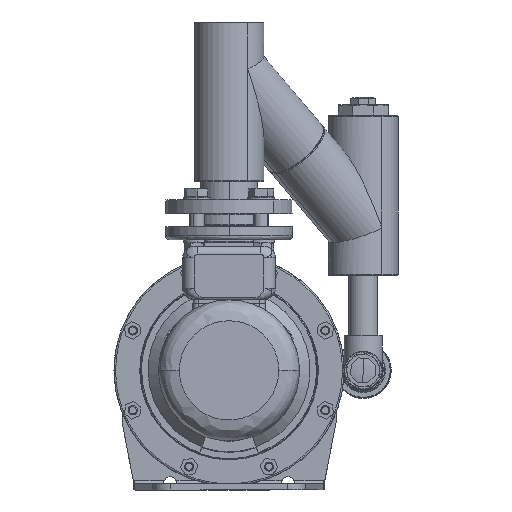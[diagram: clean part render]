
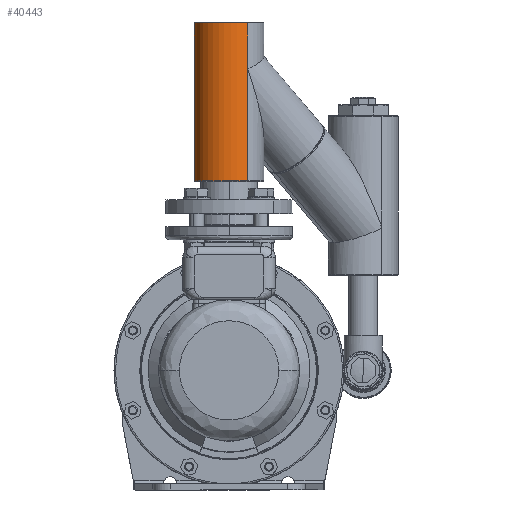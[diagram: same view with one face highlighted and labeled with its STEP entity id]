
A CAD part, front view. The second image highlights one B-rep face of the part: STEP entity #40443.
In plain terms, the highlighted cylindrical face has radius 38.5 mm (diameter 77 mm), a partial arc.
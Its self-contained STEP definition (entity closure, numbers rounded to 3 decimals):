
#40443 = ADVANCED_FACE ( 'NONE', ( #74594 ), #74615, .T. ) ;
#40462 = ORIENTED_EDGE ( 'NONE', *, *, #45023, .T. ) ;
#40533 = ORIENTED_EDGE ( 'NONE', *, *, #45128, .T. ) ;
#40579 = EDGE_LOOP ( 'NONE', ( #40585, #40582, #40462, #40533, #40659, #40655 ) ) ;
#40582 = ORIENTED_EDGE ( 'NONE', *, *, #44784, .T. ) ;
#40585 = ORIENTED_EDGE ( 'NONE', *, *, #45133, .F. ) ;
#40655 = ORIENTED_EDGE ( 'NONE', *, *, #45122, .F. ) ;
#40659 = ORIENTED_EDGE ( 'NONE', *, *, #44852, .T. ) ;
#44776 = VERTEX_POINT ( 'NONE', #82311 ) ;
#44784 = EDGE_CURVE ( 'NONE', #44776, #44947, #82287, .T. ) ;
#44796 = VERTEX_POINT ( 'NONE', #82384 ) ;
#44850 = VERTEX_POINT ( 'NONE', #82435 ) ;
#44852 = EDGE_CURVE ( 'NONE', #44850, #44796, #82434, .T. ) ;
#44947 = VERTEX_POINT ( 'NONE', #82668 ) ;
#45023 = EDGE_CURVE ( 'NONE', #44947, #45135, #82996, .T. ) ;
#45122 = EDGE_CURVE ( 'NONE', #45141, #44796, #83183, .T. ) ;
#45128 = EDGE_CURVE ( 'NONE', #45135, #44850, #83224, .T. ) ;
#45133 = EDGE_CURVE ( 'NONE', #44776, #45141, #83211, .T. ) ;
#45135 = VERTEX_POINT ( 'NONE', #83225 ) ;
#45141 = VERTEX_POINT ( 'NONE', #83206 ) ;
#74594 = FACE_OUTER_BOUND ( 'NONE', #40579, .T. ) ;
#74595 = AXIS2_PLACEMENT_3D ( 'NONE', #74597, #74596, #74621 ) ;
#74596 = DIRECTION ( 'NONE',  ( 0., 0., 1. ) ) ;
#74597 = CARTESIAN_POINT ( 'NONE',  ( -153.063, -215.473, 321.362 ) ) ;
#74615 = CYLINDRICAL_SURFACE ( 'NONE', #74595, 38.5 ) ;
#74621 = DIRECTION ( 'NONE',  ( 0.536, -0.844, 0. ) ) ;
#82287 = CIRCLE ( 'NONE', #82346, 38.5 ) ;
#82311 = CARTESIAN_POINT ( 'NONE',  ( -173.715, -182.98, 234.412 ) ) ;
#82341 = CARTESIAN_POINT ( 'NONE',  ( -153.063, -215.473, 234.412 ) ) ;
#82346 = AXIS2_PLACEMENT_3D ( 'NONE', #82341, #82394, #82393 ) ;
#82384 = CARTESIAN_POINT ( 'NONE',  ( -173.715, -182.98, 408.312 ) ) ;
#82393 = DIRECTION ( 'NONE',  ( 0.536, -0.844, 0. ) ) ;
#82394 = DIRECTION ( 'NONE',  ( 0., 0., 1. ) ) ;
#82431 = DIRECTION ( 'NONE',  ( 0.536, -0.844, 0. ) ) ;
#82432 = DIRECTION ( 'NONE',  ( 0., 0., -1. ) ) ;
#82433 = AXIS2_PLACEMENT_3D ( 'NONE', #82436, #82432, #82431 ) ;
#82434 = CIRCLE ( 'NONE', #82433, 38.5 ) ;
#82435 = CARTESIAN_POINT ( 'NONE',  ( -132.412, -247.966, 408.312 ) ) ;
#82436 = CARTESIAN_POINT ( 'NONE',  ( -153.063, -215.473, 408.312 ) ) ;
#82668 = CARTESIAN_POINT ( 'NONE',  ( -132.412, -247.966, 234.412 ) ) ;
#82995 = CARTESIAN_POINT ( 'NONE',  ( -132.412, -247.966, 321.362 ) ) ;
#82996 = LINE ( 'NONE', #82995, #83019 ) ;
#83018 = DIRECTION ( 'NONE',  ( 0., 0., 1. ) ) ;
#83019 = VECTOR ( 'NONE', #83018, 1000. ) ;
#83178 = DIRECTION ( 'NONE',  ( 0., 0., 1. ) ) ;
#83179 = VECTOR ( 'NONE', #83178, 1000. ) ;
#83182 = CARTESIAN_POINT ( 'NONE',  ( -173.715, -182.98, 321.362 ) ) ;
#83183 = LINE ( 'NONE', #83182, #83179 ) ;
#83206 = CARTESIAN_POINT ( 'NONE',  ( -173.715, -182.98, 357.362 ) ) ;
#83208 = DIRECTION ( 'NONE',  ( 0., 0., 1. ) ) ;
#83209 = VECTOR ( 'NONE', #83208, 1000. ) ;
#83210 = CARTESIAN_POINT ( 'NONE',  ( -173.715, -182.98, 321.362 ) ) ;
#83211 = LINE ( 'NONE', #83210, #83209 ) ;
#83221 = DIRECTION ( 'NONE',  ( 0., 0., 1. ) ) ;
#83222 = VECTOR ( 'NONE', #83221, 1000. ) ;
#83223 = CARTESIAN_POINT ( 'NONE',  ( -132.412, -247.966, 321.362 ) ) ;
#83224 = LINE ( 'NONE', #83223, #83222 ) ;
#83225 = CARTESIAN_POINT ( 'NONE',  ( -132.412, -247.966, 357.362 ) ) ;
